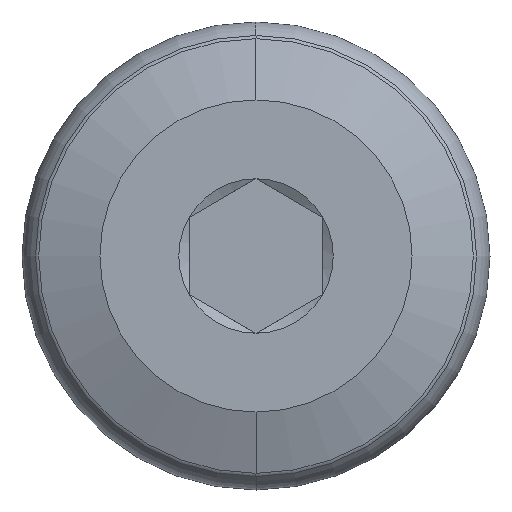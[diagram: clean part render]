
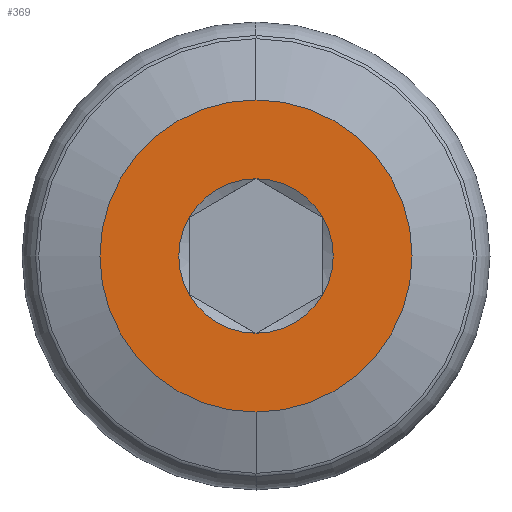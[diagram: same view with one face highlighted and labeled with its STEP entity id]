
A CAD part, left-side view. The second image highlights one B-rep face of the part: STEP entity #369.
In plain terms, the highlighted planar face has unit normal (-1, 0, 0).
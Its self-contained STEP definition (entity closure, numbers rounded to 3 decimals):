
#2 = CIRCLE ( 'NONE', #593, 3.5 ) ;
#16 = CIRCLE ( 'NONE', #477, 3.5 ) ;
#42 = VERTEX_POINT ( 'NONE', #441 ) ;
#53 = DIRECTION ( 'NONE',  ( 1., 0., 0. ) ) ;
#59 = DIRECTION ( 'NONE',  ( 0., 0., -1. ) ) ;
#62 = DIRECTION ( 'NONE',  ( 0., 0., -1. ) ) ;
#87 = CIRCLE ( 'NONE', #480, 1.732 ) ;
#91 = VERTEX_POINT ( 'NONE', #246 ) ;
#115 = EDGE_CURVE ( 'NONE', #806, #674, #802, .T. ) ;
#121 = CARTESIAN_POINT ( 'NONE',  ( 0., 0., 0. ) ) ;
#131 = CIRCLE ( 'NONE', #607, 1.732 ) ;
#135 = DIRECTION ( 'NONE',  ( 1., 0., 0. ) ) ;
#141 = ORIENTED_EDGE ( 'NONE', *, *, #115, .T. ) ;
#147 = AXIS2_PLACEMENT_3D ( 'NONE', #655, #334, #198 ) ;
#151 = ORIENTED_EDGE ( 'NONE', *, *, #486, .F. ) ;
#154 = VERTEX_POINT ( 'NONE', #409 ) ;
#198 = DIRECTION ( 'NONE',  ( 0., 0., -1. ) ) ;
#209 = EDGE_CURVE ( 'NONE', #317, #625, #2, .T. ) ;
#235 = DIRECTION ( 'NONE',  ( 1., 0., 0. ) ) ;
#240 = ORIENTED_EDGE ( 'NONE', *, *, #387, .T. ) ;
#241 = DIRECTION ( 'NONE',  ( 0., 0., -1. ) ) ;
#246 = CARTESIAN_POINT ( 'NONE',  ( 0., -1.5, -0.866 ) ) ;
#248 = PLANE ( 'NONE',  #720 ) ;
#268 = DIRECTION ( 'NONE',  ( 1., 0., 0. ) ) ;
#269 = CIRCLE ( 'NONE', #478, 1.732 ) ;
#303 = DIRECTION ( 'NONE',  ( 1., 0., 0. ) ) ;
#317 = VERTEX_POINT ( 'NONE', #702 ) ;
#319 = CARTESIAN_POINT ( 'NONE',  ( 0., 0., 0. ) ) ;
#329 = DIRECTION ( 'NONE',  ( 0., 0., -1. ) ) ;
#330 = EDGE_CURVE ( 'NONE', #91, #154, #131, .T. ) ;
#334 = DIRECTION ( 'NONE',  ( 1., 0., 0. ) ) ;
#340 = CARTESIAN_POINT ( 'NONE',  ( 0., 0., 0. ) ) ;
#368 = DIRECTION ( 'NONE',  ( 0., 0., -1. ) ) ;
#369 = ADVANCED_FACE ( 'NONE', ( #571, #812 ), #248, .T. ) ;
#387 = EDGE_CURVE ( 'NONE', #154, #42, #830, .T. ) ;
#409 = CARTESIAN_POINT ( 'NONE',  ( 0., 0., -1.732 ) ) ;
#436 = EDGE_CURVE ( 'NONE', #42, #806, #751, .T. ) ;
#441 = CARTESIAN_POINT ( 'NONE',  ( 0., 1.5, -0.866 ) ) ;
#450 = AXIS2_PLACEMENT_3D ( 'NONE', #822, #303, #770 ) ;
#466 = EDGE_LOOP ( 'NONE', ( #141, #700, #827, #649, #240, #759 ) ) ;
#477 = AXIS2_PLACEMENT_3D ( 'NONE', #780, #135, #329 ) ;
#478 = AXIS2_PLACEMENT_3D ( 'NONE', #121, #235, #241 ) ;
#480 = AXIS2_PLACEMENT_3D ( 'NONE', #696, #53, #59 ) ;
#486 = EDGE_CURVE ( 'NONE', #625, #317, #16, .T. ) ;
#495 = EDGE_LOOP ( 'NONE', ( #151, #671 ) ) ;
#508 = DIRECTION ( 'NONE',  ( -1., 0., 0. ) ) ;
#543 = CARTESIAN_POINT ( 'NONE',  ( 0., 0., -3.5 ) ) ;
#571 = FACE_BOUND ( 'NONE', #466, .T. ) ;
#582 = CARTESIAN_POINT ( 'NONE',  ( 0., 0., 0. ) ) ;
#593 = AXIS2_PLACEMENT_3D ( 'NONE', #340, #268, #604 ) ;
#604 = DIRECTION ( 'NONE',  ( 0., 0., -1. ) ) ;
#607 = AXIS2_PLACEMENT_3D ( 'NONE', #319, #836, #368 ) ;
#620 = DIRECTION ( 'NONE',  ( 0., 0., 1. ) ) ;
#625 = VERTEX_POINT ( 'NONE', #543 ) ;
#635 = DIRECTION ( 'NONE',  ( 1., 0., 0. ) ) ;
#649 = ORIENTED_EDGE ( 'NONE', *, *, #330, .T. ) ;
#655 = CARTESIAN_POINT ( 'NONE',  ( 0., 0., 0. ) ) ;
#671 = ORIENTED_EDGE ( 'NONE', *, *, #209, .F. ) ;
#674 = VERTEX_POINT ( 'NONE', #804 ) ;
#676 = AXIS2_PLACEMENT_3D ( 'NONE', #582, #635, #62 ) ;
#696 = CARTESIAN_POINT ( 'NONE',  ( 0., 0., 0. ) ) ;
#700 = ORIENTED_EDGE ( 'NONE', *, *, #809, .T. ) ;
#702 = CARTESIAN_POINT ( 'NONE',  ( 0., 0., 3.5 ) ) ;
#720 = AXIS2_PLACEMENT_3D ( 'NONE', #752, #508, #620 ) ;
#751 = CIRCLE ( 'NONE', #147, 1.732 ) ;
#752 = CARTESIAN_POINT ( 'NONE',  ( 0., 3.5, 0. ) ) ;
#755 = EDGE_CURVE ( 'NONE', #820, #91, #269, .T. ) ;
#758 = CARTESIAN_POINT ( 'NONE',  ( 0., -1.5, 0.866 ) ) ;
#759 = ORIENTED_EDGE ( 'NONE', *, *, #436, .T. ) ;
#766 = CARTESIAN_POINT ( 'NONE',  ( 0., 1.5, 0.866 ) ) ;
#770 = DIRECTION ( 'NONE',  ( 0., 0., -1. ) ) ;
#780 = CARTESIAN_POINT ( 'NONE',  ( 0., 0., 0. ) ) ;
#802 = CIRCLE ( 'NONE', #676, 1.732 ) ;
#804 = CARTESIAN_POINT ( 'NONE',  ( 0., 0., 1.732 ) ) ;
#806 = VERTEX_POINT ( 'NONE', #766 ) ;
#809 = EDGE_CURVE ( 'NONE', #674, #820, #87, .T. ) ;
#812 = FACE_OUTER_BOUND ( 'NONE', #495, .T. ) ;
#820 = VERTEX_POINT ( 'NONE', #758 ) ;
#822 = CARTESIAN_POINT ( 'NONE',  ( 0., 0., 0. ) ) ;
#827 = ORIENTED_EDGE ( 'NONE', *, *, #755, .T. ) ;
#830 = CIRCLE ( 'NONE', #450, 1.732 ) ;
#836 = DIRECTION ( 'NONE',  ( 1., 0., 0. ) ) ;
